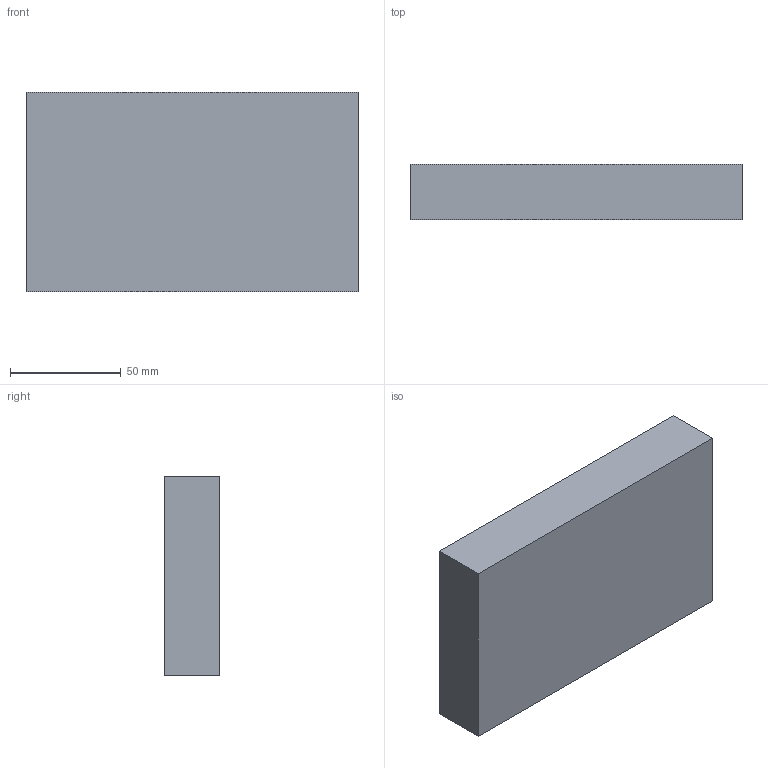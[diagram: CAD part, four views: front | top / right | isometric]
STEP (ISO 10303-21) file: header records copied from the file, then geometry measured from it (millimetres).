
FILE_DESCRIPTION (( 'STEP AP203' ), '1' );
FILE_NAME ('V2_REF_electronics_envelope.STEP', '2026-09-18T10:18:18', ( '15300530775@163.com' ), ( '' ), 'SwSTEP 2.0', 'SolidWorks 2026', '' );
FILE_SCHEMA (( 'CONFIG_CONTROL_DESIGN' ));
Length unit declared in the file: millimetre
Products named in the file (1): V2_REF_electronics_envelope
Bounding box: 150 x 25 x 90 mm (x, y, z)
Volume: 337500 mm3; surface area: 39000 mm2
Topology: 1 solids, 1 shells, 6 faces, 12 edges, 8 vertices
Faces by surface type: plane 6
Entity records: 233 total; most frequent: CARTESIAN_POINT 27, DIRECTION 26, ORIENTED_EDGE 24, EDGE_CURVE 12, LINE 12, VECTOR 12, VERTEX_POINT 8, PERSON_AND_ORGANIZATION 8
